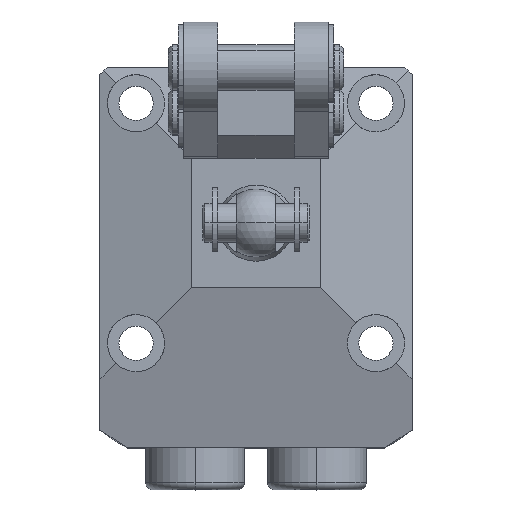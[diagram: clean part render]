
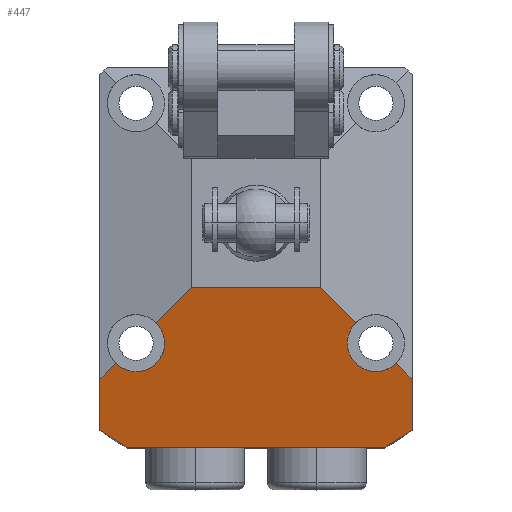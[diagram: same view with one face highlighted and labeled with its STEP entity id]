
A CAD part, top view. The second image highlights one B-rep face of the part: STEP entity #447.
In plain terms, the highlighted planar face has unit normal (0, -0.259, 0.966).
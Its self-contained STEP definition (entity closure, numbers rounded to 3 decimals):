
#15 = PLANE ( 'NONE',  #3899 ) ;
#27 = DIRECTION ( 'NONE',  ( -0.695, 0.695, 0.186 ) ) ;
#69 = EDGE_LOOP ( 'NONE', ( #5820, #7493, #2704, #504, #958, #3227, #3386, #5165, #7682, #1451, #6195, #7048, #6398, #7053 ) ) ;
#156 = VERTEX_POINT ( 'NONE', #2040 ) ;
#250 = VERTEX_POINT ( 'NONE', #895 ) ;
#263 =( BOUNDED_CURVE ( )  B_SPLINE_CURVE ( 3, ( #3862, #7475, #4461, #910 ),
 .UNSPECIFIED., .F., .F. ) 
 B_SPLINE_CURVE_WITH_KNOTS ( ( 4, 4 ),
 ( 4.712, 5.498 ),
 .UNSPECIFIED. ) 
 CURVE ( )  GEOMETRIC_REPRESENTATION_ITEM ( )  RATIONAL_B_SPLINE_CURVE ( ( 1., 0.949, 0.949, 1. ) ) 
 REPRESENTATION_ITEM ( '' )  );
#273 = CARTESIAN_POINT ( 'NONE',  ( 20.501, -29.5, 46.873 ) ) ;
#306 = VERTEX_POINT ( 'NONE', #7323 ) ;
#324 = VERTEX_POINT ( 'NONE', #5550 ) ;
#376 = EDGE_CURVE ( 'NONE', #250, #306, #1145, .T. ) ;
#447 = ADVANCED_FACE ( 'NONE', ( #5039 ), #15, .F. ) ;
#457 = CARTESIAN_POINT ( 'NONE',  ( 20.5, -20.5, 49.285 ) ) ;
#469 = CARTESIAN_POINT ( 'NONE',  ( -15.75, -19.5, 49.553 ) ) ;
#476 = EDGE_CURVE ( 'NONE', #7220, #156, #7520, .T. ) ;
#504 = ORIENTED_EDGE ( 'NONE', *, *, #1660, .T. ) ;
#540 = CARTESIAN_POINT ( 'NONE',  ( -13.098, -13.098, 51.268 ) ) ;
#589 = CARTESIAN_POINT ( 'NONE',  ( 8.5, -8.5, 52.5 ) ) ;
#596 = VERTEX_POINT ( 'NONE', #3580 ) ;
#650 = VECTOR ( 'NONE', #7723, 1000. ) ;
#664 = EDGE_CURVE ( 'NONE', #7220, #3824, #3151, .T. ) ;
#707 = CARTESIAN_POINT ( 'NONE',  ( 20.5, -8.5, 52.5 ) ) ;
#720 = LINE ( 'NONE', #3566, #2296 ) ;
#766 = CARTESIAN_POINT ( 'NONE',  ( 20.501, -8.5, 52.5 ) ) ;
#856 = CARTESIAN_POINT ( 'NONE',  ( 14.293, -14.293, 50.948 ) ) ;
#895 = CARTESIAN_POINT ( 'NONE',  ( -16.904, -29.5, 46.873 ) ) ;
#910 = CARTESIAN_POINT ( 'NONE',  ( 13.098, -13.098, 51.268 ) ) ;
#920 = LINE ( 'NONE', #273, #7103 ) ;
#958 = ORIENTED_EDGE ( 'NONE', *, *, #7515, .T. ) ;
#979 = VERTEX_POINT ( 'NONE', #1117 ) ;
#1117 = CARTESIAN_POINT ( 'NONE',  ( -8.5, -8.5, 52.5 ) ) ;
#1145 =( BOUNDED_CURVE ( )  B_SPLINE_CURVE ( 3, ( #3751, #4372, #6216, #2625 ),
 .UNSPECIFIED., .F., .T. ) 
 B_SPLINE_CURVE_WITH_KNOTS ( ( 4, 4 ),
 ( 0.52, 0.647 ),
 .UNSPECIFIED. ) 
 CURVE ( )  GEOMETRIC_REPRESENTATION_ITEM ( )  RATIONAL_B_SPLINE_CURVE ( ( 1., 0.999, 0.999, 1. ) ) 
 REPRESENTATION_ITEM ( '' )  );
#1164 = CARTESIAN_POINT ( 'NONE',  ( 5.498, 5.498, 56.251 ) ) ;
#1231 = VERTEX_POINT ( 'NONE', #5354 ) ;
#1451 = ORIENTED_EDGE ( 'NONE', *, *, #5835, .T. ) ;
#1660 = EDGE_CURVE ( 'NONE', #3824, #7340, #720, .T. ) ;
#1853 = CARTESIAN_POINT ( 'NONE',  ( 19.352, -27.992, 47.277 ) ) ;
#2040 = CARTESIAN_POINT ( 'NONE',  ( 16.904, -29.5, 46.873 ) ) ;
#2120 = CARTESIAN_POINT ( 'NONE',  ( -20.5, -8.5, 52.5 ) ) ;
#2223 = VECTOR ( 'NONE', #3247, 1000. ) ;
#2259 = CARTESIAN_POINT ( 'NONE',  ( -17.689, -19.114, 49.656 ) ) ;
#2296 = VECTOR ( 'NONE', #27, 1000. ) ;
#2355 =( BOUNDED_CURVE ( )  B_SPLINE_CURVE ( 3, ( #6418, #3403, #7603, #3983 ),
 .UNSPECIFIED., .F., .F. ) 
 B_SPLINE_CURVE_WITH_KNOTS ( ( 4, 4 ),
 ( 2.356, 4.712 ),
 .UNSPECIFIED. ) 
 CURVE ( )  GEOMETRIC_REPRESENTATION_ITEM ( )  RATIONAL_B_SPLINE_CURVE ( ( 1., 0.588, 0.588, 1. ) ) 
 REPRESENTATION_ITEM ( '' )  );
#2404 = DIRECTION ( 'NONE',  ( 0., 0.966, 0.259 ) ) ;
#2625 = CARTESIAN_POINT ( 'NONE',  ( -20.5, -27.125, 47.51 ) ) ;
#2704 = ORIENTED_EDGE ( 'NONE', *, *, #664, .T. ) ;
#2810 = EDGE_CURVE ( 'NONE', #596, #7513, #263, .T. ) ;
#2898 = CARTESIAN_POINT ( 'NONE',  ( -13.098, -13.098, 51.268 ) ) ;
#2975 = EDGE_CURVE ( 'NONE', #4491, #1231, #6646, .T. ) ;
#3030 = CARTESIAN_POINT ( 'NONE',  ( 18.152, -28.785, 47.065 ) ) ;
#3068 = DIRECTION ( 'NONE',  ( -1., 0., 0. ) ) ;
#3151 = LINE ( 'NONE', #707, #6350 ) ;
#3196 = EDGE_CURVE ( 'NONE', #7110, #979, #7223, .T. ) ;
#3227 = ORIENTED_EDGE ( 'NONE', *, *, #2810, .T. ) ;
#3247 = DIRECTION ( 'NONE',  ( 0.695, 0.695, 0.186 ) ) ;
#3293 = DIRECTION ( 'NONE',  ( 0., -0.966, -0.259 ) ) ;
#3386 = ORIENTED_EDGE ( 'NONE', *, *, #5563, .T. ) ;
#3403 = CARTESIAN_POINT ( 'NONE',  ( 15.626, -21.177, 49.103 ) ) ;
#3515 = VECTOR ( 'NONE', #3293, 1000. ) ;
#3566 = CARTESIAN_POINT ( 'NONE',  ( 14.293, -14.293, 50.948 ) ) ;
#3580 = CARTESIAN_POINT ( 'NONE',  ( 12., -15.75, 50.557 ) ) ;
#3609 = EDGE_CURVE ( 'NONE', #156, #250, #920, .T. ) ;
#3640 = CARTESIAN_POINT ( 'NONE',  ( 20.5, -27.125, 47.51 ) ) ;
#3751 = CARTESIAN_POINT ( 'NONE',  ( -16.904, -29.5, 46.873 ) ) ;
#3797 = LINE ( 'NONE', #6260, #2223 ) ;
#3824 = VERTEX_POINT ( 'NONE', #457 ) ;
#3862 = CARTESIAN_POINT ( 'NONE',  ( 12., -15.75, 50.557 ) ) ;
#3899 = AXIS2_PLACEMENT_3D ( 'NONE', #4775, #5991, #2404 ) ;
#3983 = CARTESIAN_POINT ( 'NONE',  ( 12., -15.75, 50.557 ) ) ;
#4067 = CARTESIAN_POINT ( 'NONE',  ( -15.75, -19.5, 49.553 ) ) ;
#4353 = LINE ( 'NONE', #856, #5596 ) ;
#4362 =( BOUNDED_CURVE ( )  B_SPLINE_CURVE ( 3, ( #2898, #6510, #7693, #4067 ),
 .UNSPECIFIED., .F., .F. ) 
 B_SPLINE_CURVE_WITH_KNOTS ( ( 4, 4 ),
 ( 0.785, 3.142 ),
 .UNSPECIFIED. ) 
 CURVE ( )  GEOMETRIC_REPRESENTATION_ITEM ( )  RATIONAL_B_SPLINE_CURVE ( ( 1., 0.588, 0.588, 1. ) ) 
 REPRESENTATION_ITEM ( '' )  );
#4372 = CARTESIAN_POINT ( 'NONE',  ( -18.152, -28.785, 47.065 ) ) ;
#4412 = DIRECTION ( 'NONE',  ( -0.695, 0.695, 0.186 ) ) ;
#4461 = CARTESIAN_POINT ( 'NONE',  ( 12.386, -13.811, 51.077 ) ) ;
#4491 = VERTEX_POINT ( 'NONE', #7707 ) ;
#4615 = CARTESIAN_POINT ( 'NONE',  ( -16.758, -19.5, 49.553 ) ) ;
#4775 = CARTESIAN_POINT ( 'NONE',  ( 20.501, -8.5, 52.5 ) ) ;
#4879 = DIRECTION ( 'NONE',  ( 0., 0.966, 0.259 ) ) ;
#4940 = DIRECTION ( 'NONE',  ( -1., 0., 0. ) ) ;
#4967 = CARTESIAN_POINT ( 'NONE',  ( 18.402, -18.402, 49.847 ) ) ;
#5036 = LINE ( 'NONE', #2120, #3515 ) ;
#5039 = FACE_OUTER_BOUND ( 'NONE', #69, .T. ) ;
#5165 = ORIENTED_EDGE ( 'NONE', *, *, #3196, .T. ) ;
#5220 = LINE ( 'NONE', #1164, #650 ) ;
#5354 = CARTESIAN_POINT ( 'NONE',  ( -18.402, -18.402, 49.847 ) ) ;
#5550 = CARTESIAN_POINT ( 'NONE',  ( -20.5, -20.5, 49.285 ) ) ;
#5563 = EDGE_CURVE ( 'NONE', #7513, #7110, #4353, .T. ) ;
#5579 = EDGE_CURVE ( 'NONE', #324, #1231, #3797, .T. ) ;
#5596 = VECTOR ( 'NONE', #4412, 1000. ) ;
#5635 = EDGE_CURVE ( 'NONE', #324, #306, #5036, .T. ) ;
#5820 = ORIENTED_EDGE ( 'NONE', *, *, #3609, .F. ) ;
#5835 = EDGE_CURVE ( 'NONE', #7062, #4491, #4362, .T. ) ;
#5872 = EDGE_CURVE ( 'NONE', #7062, #979, #5220, .T. ) ;
#5991 = DIRECTION ( 'NONE',  ( 0., 0.259, -0.966 ) ) ;
#6014 = CARTESIAN_POINT ( 'NONE',  ( 20.5, -27.125, 47.51 ) ) ;
#6195 = ORIENTED_EDGE ( 'NONE', *, *, #2975, .T. ) ;
#6216 = CARTESIAN_POINT ( 'NONE',  ( -19.352, -27.992, 47.277 ) ) ;
#6260 = CARTESIAN_POINT ( 'NONE',  ( 5.498, 5.498, 56.251 ) ) ;
#6350 = VECTOR ( 'NONE', #4879, 1000. ) ;
#6398 = ORIENTED_EDGE ( 'NONE', *, *, #5635, .T. ) ;
#6418 = CARTESIAN_POINT ( 'NONE',  ( 18.402, -18.402, 49.847 ) ) ;
#6455 = CARTESIAN_POINT ( 'NONE',  ( -18.402, -18.402, 49.847 ) ) ;
#6510 = CARTESIAN_POINT ( 'NONE',  ( -10.323, -15.874, 50.524 ) ) ;
#6646 =( BOUNDED_CURVE ( )  B_SPLINE_CURVE ( 3, ( #469, #4615, #2259, #6455 ),
 .UNSPECIFIED., .F., .F. ) 
 B_SPLINE_CURVE_WITH_KNOTS ( ( 4, 4 ),
 ( 3.142, 3.927 ),
 .UNSPECIFIED. ) 
 CURVE ( )  GEOMETRIC_REPRESENTATION_ITEM ( )  RATIONAL_B_SPLINE_CURVE ( ( 1., 0.949, 0.949, 1. ) ) 
 REPRESENTATION_ITEM ( '' )  );
#7048 = ORIENTED_EDGE ( 'NONE', *, *, #5579, .F. ) ;
#7053 = ORIENTED_EDGE ( 'NONE', *, *, #376, .F. ) ;
#7062 = VERTEX_POINT ( 'NONE', #540 ) ;
#7103 = VECTOR ( 'NONE', #3068, 1000. ) ;
#7110 = VERTEX_POINT ( 'NONE', #589 ) ;
#7220 = VERTEX_POINT ( 'NONE', #3640 ) ;
#7223 = LINE ( 'NONE', #766, #7411 ) ;
#7235 = CARTESIAN_POINT ( 'NONE',  ( 16.904, -29.5, 46.873 ) ) ;
#7323 = CARTESIAN_POINT ( 'NONE',  ( -20.5, -27.125, 47.51 ) ) ;
#7340 = VERTEX_POINT ( 'NONE', #4967 ) ;
#7411 = VECTOR ( 'NONE', #4940, 1000. ) ;
#7475 = CARTESIAN_POINT ( 'NONE',  ( 12., -14.742, 50.827 ) ) ;
#7493 = ORIENTED_EDGE ( 'NONE', *, *, #476, .F. ) ;
#7513 = VERTEX_POINT ( 'NONE', #7582 ) ;
#7515 = EDGE_CURVE ( 'NONE', #7340, #596, #2355, .T. ) ;
#7520 =( BOUNDED_CURVE ( )  B_SPLINE_CURVE ( 3, ( #6014, #1853, #3030, #7235 ),
 .UNSPECIFIED., .F., .F. ) 
 B_SPLINE_CURVE_WITH_KNOTS ( ( 4, 4 ),
 ( 5.636, 5.763 ),
 .UNSPECIFIED. ) 
 CURVE ( )  GEOMETRIC_REPRESENTATION_ITEM ( )  RATIONAL_B_SPLINE_CURVE ( ( 1., 0.999, 0.999, 1. ) ) 
 REPRESENTATION_ITEM ( '' )  );
#7582 = CARTESIAN_POINT ( 'NONE',  ( 13.098, -13.098, 51.268 ) ) ;
#7603 = CARTESIAN_POINT ( 'NONE',  ( 12., -19.675, 49.506 ) ) ;
#7682 = ORIENTED_EDGE ( 'NONE', *, *, #5872, .F. ) ;
#7693 = CARTESIAN_POINT ( 'NONE',  ( -11.825, -19.5, 49.553 ) ) ;
#7707 = CARTESIAN_POINT ( 'NONE',  ( -15.75, -19.5, 49.553 ) ) ;
#7723 = DIRECTION ( 'NONE',  ( 0.695, 0.695, 0.186 ) ) ;
